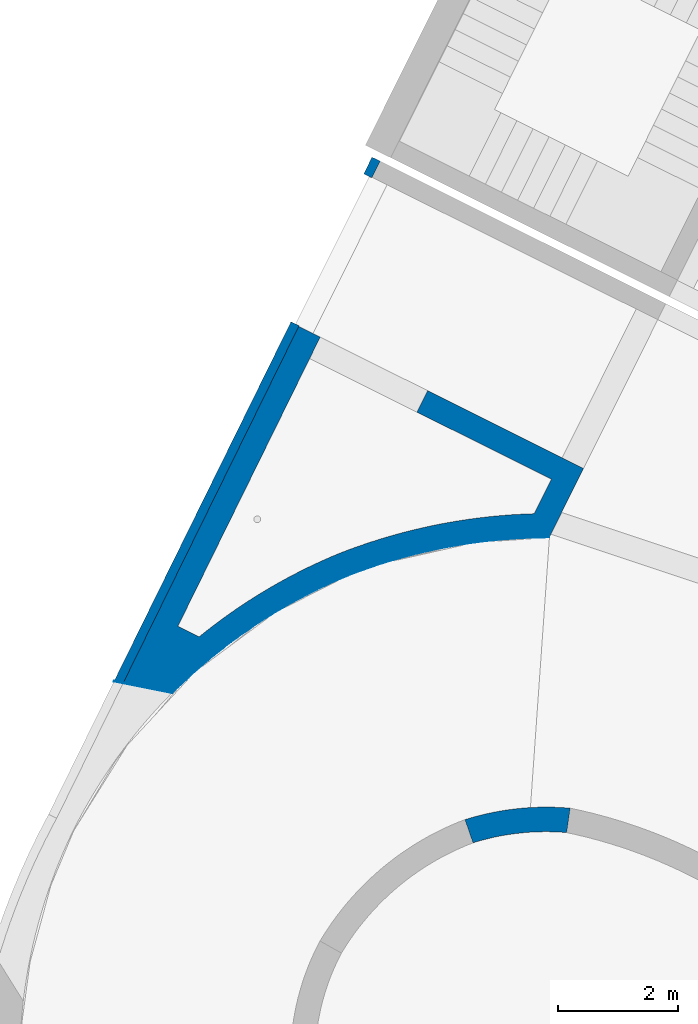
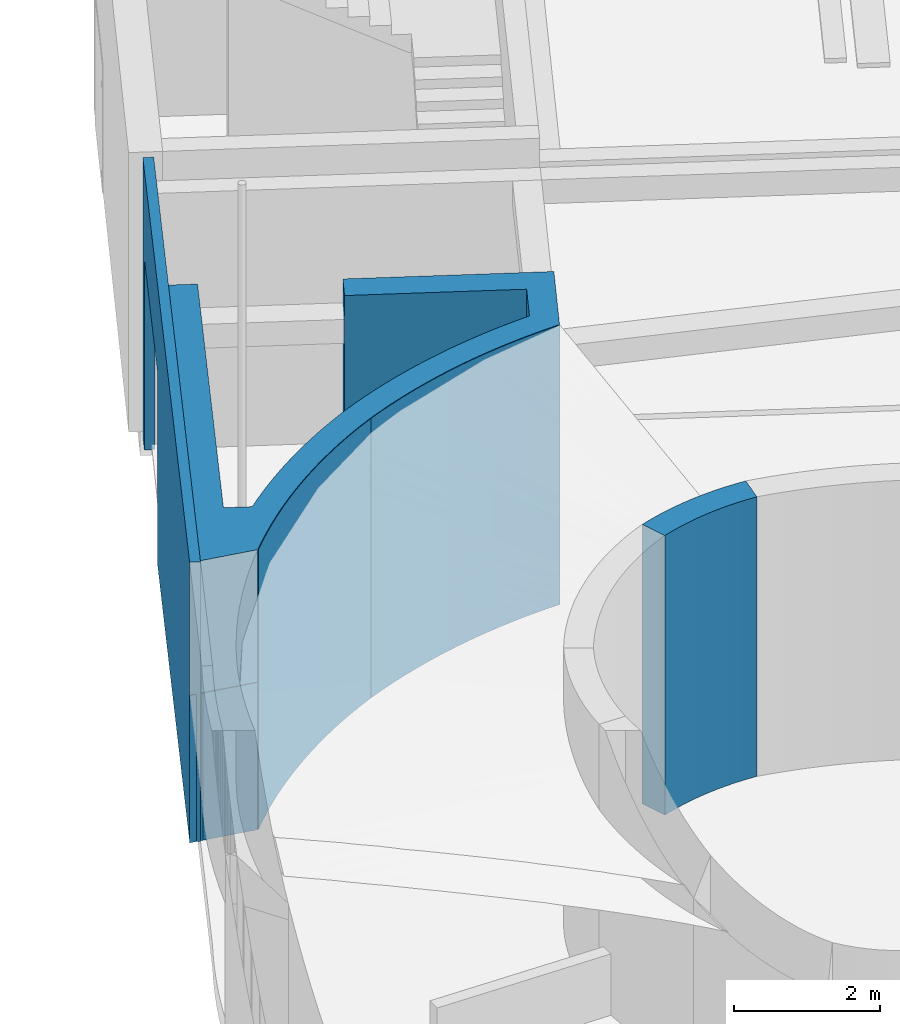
# One storey, part 8 of 91: 7 walls, 2 openings.
"""IFC2X3 building model written with IfcOpenShell, lengths in metres."""

import ifcopenshell
import ifcopenshell.guid

model = None  # the IFC model being written
_history = None  # IfcOwnerHistory: only IFC2X3 demands one
_inside = {}  # id of a spatial element -> (the spatial element, [elements in it])
_under = {}  # id of a project, library or spatial element -> (it, [spatial elements below it])
_declared = {}  # id of a project -> (the project, [libraries it declares])
_typed = {}  # id of a type object -> (the type object, [elements of that type])
_made_of = {}  # id of a material, layer set ... -> (it, [elements and type objects made of it])


def new_model(schema):
    """Start an empty IFC model of exactly this schema.

    Asked for "IFC4X3", IfcOpenShell would pick the latest addendum, in which some entities
    have other attributes; the version numbers below select the first issue.
    IFC2X3 requires an IfcOwnerHistory on every rooted entity: one is made here for all.
    """
    global model, _history
    if schema == "IFC4X3":
        model = ifcopenshell.file(schema_version=(4, 3, 0, 0))
    else:
        model = ifcopenshell.file(schema=schema)
    _inside.clear()
    _under.clear()
    _declared.clear()
    _typed.clear()
    _made_of.clear()
    _history = None
    if model.schema == "IFC2X3":
        org = make("IfcOrganization", Name="unknown")
        user = make(
            "IfcPersonAndOrganization",
            ThePerson=make("IfcPerson", FamilyName="unknown"),
            TheOrganization=org,
        )
        app = make(
            "IfcApplication",
            ApplicationDeveloper=org,
            Version="unknown",
            ApplicationFullName="unknown",
            ApplicationIdentifier="unknown",
        )
        _history = make(
            "IfcOwnerHistory",
            OwningUser=user,
            OwningApplication=app,
            ChangeAction="ADDED",
            CreationDate=0,
        )
    return model


def make(cls, **values):
    """One entity of the class cls with the attributes given. An attribute that is None is left unset."""
    return model.create_entity(
        cls, **{name: value for name, value in values.items() if value is not None}
    )


def entity(cls, *values):
    """Any entity or typed value of the class cls, its attributes in the order of the schema. None: left unset."""
    e = model.create_entity(cls)
    for i, value in enumerate(values):
        if value is not None:
            e[i] = value
    return e


def rooted(cls, **values):
    """An entity with a GlobalId (a new one), such as an element, a storey or a relation."""
    return make(cls, GlobalId=ifcopenshell.guid.new(), OwnerHistory=_history, **values)


def si_unit(unit_type, name, prefix=None):
    """IfcSIUnit, for example si_unit("LENGTHUNIT", "METRE", prefix="MILLI")."""
    return make("IfcSIUnit", UnitType=unit_type, Prefix=prefix, Name=name)


def converted_unit(unit_type, name, factor, base, dimensions=None, offset=None):
    """IfcConversionBasedUnit, such as the inch: factor (a typed value) times the base unit."""
    return make(
        "IfcConversionBasedUnit"
        if offset is None
        else "IfcConversionBasedUnitWithOffset",
        ConversionOffset=offset,
        Dimensions=None
        if dimensions is None
        else entity("IfcDimensionalExponents", *dimensions),
        UnitType=unit_type,
        Name=name,
        ConversionFactor=make(
            "IfcMeasureWithUnit", ValueComponent=factor, UnitComponent=base
        ),
    )


def derived_unit(unit_type, elements):
    """IfcDerivedUnit: a product of units, each with its exponent."""
    return make(
        "IfcDerivedUnit",
        Elements=[
            make("IfcDerivedUnitElement", Unit=unit, Exponent=power)
            for unit, power in elements
        ],
        UnitType=unit_type,
    )


def assignment(units):
    """IfcUnitAssignment: the units of a project."""
    return None if units is None else make("IfcUnitAssignment", Units=units)


def point(xyz):
    """IfcCartesianPoint."""
    return None if xyz is None else make("IfcCartesianPoint", Coordinates=xyz)


def direction(xyz):
    """IfcDirection."""
    return None if xyz is None else make("IfcDirection", DirectionRatios=xyz)


def frame(location, z_axis=None, x_axis=None):
    """IfcAxis2Placement3D, a coordinate frame: its origin and axes. An axis left out is left unset."""
    return make(
        "IfcAxis2Placement3D",
        Location=point(location),
        Axis=direction(z_axis),
        RefDirection=direction(x_axis),
    )


def frame_2d(location, x_axis=None):
    """IfcAxis2Placement2D, a coordinate frame in the plane: its origin and x axis."""
    return make(
        "IfcAxis2Placement2D", Location=point(location), RefDirection=direction(x_axis)
    )


def origin():
    """The frame at (0, 0, 0) with its axes left unset."""
    return frame((0.0, 0.0, 0.0))


def place(relative_to, where):
    """IfcLocalPlacement: puts the frame where relative to a parent placement (None: the world)."""
    return make(
        "IfcLocalPlacement", PlacementRelTo=relative_to, RelativePlacement=where
    )


def context(
    kind, dimensions, precision=None, world=None, true_north=None, identifier=None
):
    """IfcGeometricRepresentationContext, for example the 3D "Model" context."""
    return make(
        "IfcGeometricRepresentationContext",
        ContextIdentifier=identifier,
        ContextType=kind,
        CoordinateSpaceDimension=dimensions,
        Precision=precision,
        WorldCoordinateSystem=world,
        TrueNorth=true_north,
    )


def subcontext(parent, identifier, kind, view, scale=None):
    """IfcGeometricRepresentationSubContext, for example "Body" below "Model"."""
    return make(
        "IfcGeometricRepresentationSubContext",
        ContextIdentifier=identifier,
        ContextType=kind,
        ParentContext=parent,
        TargetScale=scale,
        TargetView=view,
    )


def project(units=None, contexts=None):
    """IfcProject with its units and contexts."""
    return rooted(
        "IfcProject",
        Name="project",
        RepresentationContexts=contexts,
        UnitsInContext=assignment(units),
    )


def spatial(cls, under=None, at=None, **own):
    """A site, building, storey or space (cls), placed at a placement, below another one or the project."""
    s = rooted(cls, ObjectPlacement=at, **own)
    if under is not None:
        _under.setdefault(under.id(), (under, []))[1].append(s)
    return s


def polyline(points):
    """IfcPolyline through the points."""
    return make("IfcPolyline", Points=[point(p) for p in points])


def circle_curve(where, radius):
    """IfcCircle in the frame where."""
    return make("IfcCircle", Position=where, Radius=radius)


def parameter(value):
    """IfcParameterValue: where a trimmed curve begins or ends, as a parameter of its basis curve."""
    return model.create_entity("IfcParameterValue", value)


def trimmed(basis, trim1, trim2, sense, master):
    """IfcTrimmedCurve: the piece of a basis curve between two trims."""
    return make(
        "IfcTrimmedCurve",
        BasisCurve=basis,
        Trim1=trim1,
        Trim2=trim2,
        SenseAgreement=sense,
        MasterRepresentation=master,
    )


def segment(curve, same_sense, transition):
    """IfcCompositeCurveSegment."""
    return make(
        "IfcCompositeCurveSegment",
        Transition=transition,
        SameSense=same_sense,
        ParentCurve=curve,
    )


def composite_curve(segments, self_intersect=None):
    """IfcCompositeCurve: segments joined end to end."""
    return make("IfcCompositeCurve", Segments=segments, SelfIntersect=self_intersect)


def profile(cls, at=None, kind="AREA", **sizes):
    """A parametric profile (cls). Its sizes go by their IFC names, for example OverallWidth=200.0."""
    return make(cls, ProfileType=kind, Position=at, **sizes)


def rectangle(**sizes):
    """IfcRectangleProfileDef."""
    return profile("IfcRectangleProfileDef", **sizes)


def outline(outer, holes=None, kind="AREA"):
    """IfcArbitraryClosedProfileDef: a profile drawn as a closed curve; with holes, ...WithVoids."""
    if holes is None:
        return make("IfcArbitraryClosedProfileDef", ProfileType=kind, OuterCurve=outer)
    return make(
        "IfcArbitraryProfileDefWithVoids",
        ProfileType=kind,
        OuterCurve=outer,
        InnerCurves=holes,
    )


def extrude(swept, where, along, depth):
    """IfcExtrudedAreaSolid: the profile swept, set in the frame where, extruded along a direction by depth."""
    return make(
        "IfcExtrudedAreaSolid",
        SweptArea=swept,
        Position=where,
        ExtrudedDirection=direction(along),
        Depth=depth,
    )


def shape(context_of_items, identifier, shape_type, items):
    """IfcShapeRepresentation: the items that make up one representation, for example the "Body"."""
    return make(
        "IfcShapeRepresentation",
        ContextOfItems=context_of_items,
        RepresentationIdentifier=identifier,
        RepresentationType=shape_type,
        Items=items,
    )


def material(Name=None, Category=None):
    """IfcMaterial."""
    return make("IfcMaterial", Name=Name, Category=Category)


def layer(
    of_material, thickness, ventilated=None, Name=None, Category=None, Priority=None
):
    """IfcMaterialLayer: one layer of a wall or slab, of a material (None: an air gap)."""
    return make(
        "IfcMaterialLayer",
        Material=of_material,
        LayerThickness=thickness,
        IsVentilated=ventilated,
        Name=Name,
        Category=Category,
        Priority=Priority,
    )


def layer_set(layers, Name=None):
    """IfcMaterialLayerSet."""
    return make("IfcMaterialLayerSet", MaterialLayers=layers, LayerSetName=Name)


def layer_usage(for_layer_set, set_direction, sense, offset, extent=None):
    """IfcMaterialLayerSetUsage: how a layer set lies in its element."""
    return make(
        "IfcMaterialLayerSetUsage",
        ForLayerSet=for_layer_set,
        LayerSetDirection=set_direction,
        DirectionSense=sense,
        OffsetFromReferenceLine=offset,
        ReferenceExtent=extent,
    )


def made_of(thing, what):
    """Note that an element or type object is made of a material, layer set ...; save() writes the relation."""
    if what is not None:
        _made_of.setdefault(what.id(), (what, []))[1].append(thing)
    return thing


def type_object(cls, material=None, **own):
    """A type object (cls), such as IfcWallType, which elements share."""
    return made_of(rooted(cls, **own), material)


def element(
    cls,
    number,
    at=None,
    inside=None,
    cuts=None,
    type_object=None,
    material=None,
    context=None,
    identifier="Body",
    shape_type=None,
    held_by="IfcProductDefinitionShape",
    body=None,
    shapes=None,
    **own,
):
    """One element of the class cls, such as IfcWall. Its Tag is "e" and its number.

    at: its placement. inside: the storey or other place that contains it. cuts: it is an
    opening in that element (IfcRelVoidsElement). A single representation is given by context,
    identifier, shape_type and body (its items); several are given by shapes. held_by: the class
    of the entity that holds the representations. save() writes the other relations.
    """
    e = rooted(cls, Tag="e%d" % number, ObjectPlacement=at, **own)
    if body is not None:
        shapes = [shape(context, identifier, shape_type, body)]
    if shapes is not None:
        e.Representation = make(held_by, Representations=shapes)
    if inside is not None:
        _inside.setdefault(inside.id(), (inside, []))[1].append(e)
    if cuts is not None:
        rooted(
            "IfcRelVoidsElement", RelatingBuildingElement=cuts, RelatedOpeningElement=e
        )
    if type_object is not None:
        _typed.setdefault(type_object.id(), (type_object, []))[1].append(e)
    return made_of(e, material)


def aggregate(whole, parts):
    """IfcRelAggregates: a whole, such as a stair, and the parts it consists of."""
    return rooted("IfcRelAggregates", RelatingObject=whole, RelatedObjects=parts)


def save(model, path):
    """Write the relations noted so far, then the file.

    IfcRelAggregates (storeys below a building ...), IfcRelContainedInSpatialStructure (elements
    in a storey), IfcRelDefinesByType, IfcRelAssociatesMaterial and IfcRelDeclares: one each for
    every whole, place, type object, material and project.
    """
    for whole, parts in _under.values():
        aggregate(whole, parts)
    for where, things in _inside.values():
        rooted(
            "IfcRelContainedInSpatialStructure",
            RelatedElements=things,
            RelatingStructure=where,
        )
    for kind, things in _typed.values():
        rooted("IfcRelDefinesByType", RelatedObjects=things, RelatingType=kind)
    for what, things in _made_of.values():
        rooted("IfcRelAssociatesMaterial", RelatedObjects=things, RelatingMaterial=what)
    for by, libraries in _declared.values():
        rooted("IfcRelDeclares", RelatingContext=by, RelatedDefinitions=libraries)
    model.write(path)


model = new_model("IFC2X3")

# Units and contexts
model_context = context("Model", 3, precision=1e-05, world=origin(), true_north=direction((0.894925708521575, 0.446215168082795)))
context_of_model = context(None, 3, precision=1e-05, world=origin(), true_north=direction((0.894925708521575, 0.446215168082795)))
body_context = subcontext(model_context, "Body", "Model", "MODEL_VIEW")
ifc_project = project(units=[si_unit("LENGTHUNIT", "METRE"), si_unit("AREAUNIT", "SQUARE_METRE"), si_unit("VOLUMEUNIT", "CUBIC_METRE"), converted_unit("PLANEANGLEUNIT", "DEGREE", entity("IfcRatioMeasure", 0.0174532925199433), si_unit("PLANEANGLEUNIT", "RADIAN"), dimensions=[0, 0, 0, 0, 0, 0, 0]), si_unit("MASSUNIT", "GRAM", prefix="KILO"), si_unit("TIMEUNIT", "SECOND"), si_unit("FREQUENCYUNIT", "HERTZ"), si_unit("THERMODYNAMICTEMPERATUREUNIT", "DEGREE_CELSIUS"), derived_unit("THERMALTRANSMITTANCEUNIT", [(si_unit("MASSUNIT", "GRAM", prefix="KILO"), 1), (si_unit("THERMODYNAMICTEMPERATUREUNIT", "KELVIN"), -1), (si_unit("TIMEUNIT", "SECOND"), -3)]), derived_unit("VOLUMETRICFLOWRATEUNIT", [(si_unit("LENGTHUNIT", "METRE"), 3), (si_unit("TIMEUNIT", "SECOND"), -1)]), si_unit("ELECTRICCURRENTUNIT", "AMPERE"), si_unit("ELECTRICVOLTAGEUNIT", "VOLT"), si_unit("POWERUNIT", "WATT"), si_unit("FORCEUNIT", "NEWTON", prefix="KILO"), si_unit("ILLUMINANCEUNIT", "LUX"), si_unit("LUMINOUSFLUXUNIT", "LUMEN"), si_unit("LUMINOUSINTENSITYUNIT", "CANDELA"), si_unit("PRESSUREUNIT", "PASCAL")], contexts=[model_context, context_of_model])

# Site, building, storey
site_placement = place(None, frame((218.228324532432, 584.720189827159, 0.0), z_axis=(0.0, 0.0, 1.0), x_axis=(0.446215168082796, 0.894925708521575, 0.0)))
site = spatial("IfcSite", under=ifc_project, at=site_placement, Name="Default", CompositionType="ELEMENT")
building_placement = place(site_placement, origin())
building = spatial("IfcBuilding", under=site, at=building_placement, CompositionType="ELEMENT")
storey_placement = place(building_placement, origin())
storey = spatial("IfcBuildingStorey", under=building, at=storey_placement, Name="0 - Piano Terra", CompositionType="ELEMENT", Elevation=0.0)

# Wall
ifc_material_1 = material(Name="Intonaco - Bianco")
ifc_layer_1 = layer(ifc_material_1, 0.01)
ifc_material_2 = material(Name="Default - Calcestruzzo")
ifc_layer_2 = layer(ifc_material_2, 0.4)
ifc_layer_set_1 = layer_set([ifc_layer_1, ifc_layer_2], Name="Muro di base:Setto CA intonacato int - 41 cm")
ifc_layer_usage_1 = layer_usage(ifc_layer_set_1, "AXIS2", "POSITIVE", -0.205)
wall_type_1 = type_object("IfcWallType", Name="Muro di base:Setto CA intonacato int - 41 cm", PredefinedType="STANDARD", material=ifc_layer_set_1)
wall_1_placement = place(storey_placement, frame((-69.9977419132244, -0.185749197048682, 0.0), z_axis=(0.0, 0.0, 1.0), x_axis=(0.931448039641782, 0.363874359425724, 0.0)))
element("IfcWallStandardCase", 1, at=wall_1_placement, inside=storey, type_object=wall_type_1, material=ifc_layer_usage_1, Name="Muro di base:Setto CA intonacato int - 41 cm", ObjectType="Muro di base:Setto CA intonacato int - 41 cm", context=body_context, shape_type="SweptSolid", body=[
    extrude(outline(composite_curve([segment(trimmed(circle_curve(frame_2d((-3.94564680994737, -1.65081916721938), x_axis=(1.0, 0.0)), 4.48207057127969), [parameter(359.999999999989)], [parameter(22.7039466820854)], True, "PARAMETER"), True, "CONTINUOUS"), segment(polyline([(0.189114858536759, 0.0791237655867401), (-0.18479960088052, -0.089477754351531)]), True, "CONTINUOUS"), segment(trimmed(circle_curve(frame_2d((-3.94564680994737, -1.65081916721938), x_axis=(1.0, 0.0)), 4.07207057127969), [parameter(0.320799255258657)], [parameter(22.5461152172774)], True, "PARAMETER"), False, "CONTINUOUS"), segment(polyline([(0.126359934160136, -1.62801975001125), (0.536423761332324, -1.65081916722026)]), True, "CONTINUOUS")], self_intersect=False)), origin(), (0.0, 0.0, 1.0), 4.69),
])

# Wall, openings
ifc_material_3 = material(Name="Alluminio")
ifc_layer_3 = layer(ifc_material_3, 0.15)
ifc_layer_set_2 = layer_set([ifc_layer_3], Name="Muro di base:Rivestimento 15 cm")
ifc_layer_usage_2 = layer_usage(ifc_layer_set_2, "AXIS2", "NEGATIVE", 0.075)
wall_type_2 = type_object("IfcWallType", Name="Muro di base:Rivestimento 15 cm", PredefinedType="STANDARD", material=ifc_layer_set_2)
wall_2_placement = place(storey_placement, frame((-70.3903914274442, 6.14515681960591, 0.0), z_axis=(0.0, 0.0, 1.0), x_axis=(0.999986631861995, 0.00517069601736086, 0.0)))
wall_2 = element("IfcWallStandardCase", 2, at=wall_2_placement, inside=storey, type_object=wall_type_2, material=ifc_layer_usage_2, Name="Muro di base:Rivestimento 15 cm", ObjectType="Muro di base:Rivestimento 15 cm", context=body_context, shape_type="SweptSolid", body=[
    extrude(rectangle(XDim=9.71636941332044, YDim=0.15, at=frame_2d((4.8728874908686, 4.85722573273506e-17), x_axis=(1.0, 0.0))), origin(), (0.0, 0.0, 1.0), 4.69),
])
opening_1_placement = place(wall_2_placement, frame((6.67041028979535, -0.0749959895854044, 0.0)))
element("IfcOpeningElement", 3, at=opening_1_placement, cuts=wall_2, Name="Muro di base:Rivestimento 15 cm", ObjectType="Opening", context=body_context, shape_type="SweptSolid", body=[
    extrude(rectangle(XDim=0.0899999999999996, YDim=2.74999999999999, at=frame_2d((0.0, 4.32986979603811e-15), x_axis=(1.0, 0.0))), frame((1.37577559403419, -4.01041459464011e-06, 0.0449999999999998), z_axis=(0.0, 1.0, 0.0), x_axis=(0.0, 0.0, -1.0)), (0.0, 0.0, 1.0), 0.149999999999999),
])
opening_2_placement = place(wall_2_placement, frame((6.65531212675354, -1.59891850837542, 0.0900000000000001)))
element("IfcOpeningElement", 4, at=opening_2_placement, cuts=wall_2, Name="Muro di base:Rivestimento 15 cm", ObjectType="Opening", context=body_context, shape_type="SweptSolid", body=[
    extrude(rectangle(XDim=3.13, YDim=2.75, at=frame_2d((8.65973959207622e-15, 0.0), x_axis=(0.0, 1.0))), frame((1.39076007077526, -8.14916245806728e-05, 1.565), z_axis=(0.0, 1.0, 0.0), x_axis=(1.0, 0.0, 0.0)), (0.0, 0.0, 1.0), 3.048),
])

# Walls
ifc_layer_4 = layer(ifc_material_1, 0.01)
ifc_layer_set_3 = layer_set([ifc_layer_4], Name="Muro di base:Intonaco int 1 cm")
ifc_layer_usage_3 = layer_usage(ifc_layer_set_3, "AXIS2", "NEGATIVE", 0.00500000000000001)
wall_type_3 = type_object("IfcWallType", Name="Muro di base:Intonaco int 1 cm", PredefinedType="STANDARD", material=ifc_layer_set_3)
wall_3_placement = place(storey_placement, frame((-65.0089584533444, 0.797668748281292, 0.0)))
element("IfcWallStandardCase", 5, at=wall_3_placement, inside=storey, type_object=wall_type_3, material=ifc_layer_usage_3, Name="Muro di base:Intonaco int 1 cm", ObjectType="Muro di base:Intonaco int 1 cm", context=body_context, shape_type="SweptSolid", body=[
    extrude(outline(composite_curve([segment(trimmed(circle_curve(frame_2d((-8.24751256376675, -4.12505517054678), x_axis=(1.0, 0.0)), 9.21658032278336), [parameter(26.5722694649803)], [parameter(47.9921140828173)], True, "PARAMETER"), False, "CONTINUOUS"), segment(polyline([(-0.0044718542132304, -0.0022366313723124), (0.00447185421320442, 0.00223663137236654)]), True, "CONTINUOUS"), segment(trimmed(circle_curve(frame_2d((-8.24751256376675, -4.12505517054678), x_axis=(1.0, 0.0)), 9.22658032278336), [parameter(26.57226946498)], [parameter(47.9926519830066)], True, "PARAMETER"), True, "CONTINUOUS"), segment(polyline([(-2.07284597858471, 2.73083842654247), (-2.07947394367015, 2.72334993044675)]), True, "CONTINUOUS")], self_intersect=False)), origin(), (0.0, 0.0, 1.0), 4.69),
])
ifc_layer_usage_4 = layer_usage(ifc_layer_set_3, "AXIS2", "NEGATIVE", 0.00500000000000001)
wall_4_placement = place(storey_placement, frame((-67.085085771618, 3.52473453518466, 0.0)))
element("IfcWallStandardCase", 6, at=wall_4_placement, inside=storey, type_object=wall_type_3, material=ifc_layer_usage_4, Name="Muro di base:Intonaco int 1 cm", ObjectType="Muro di base:Intonaco int 1 cm", context=body_context, shape_type="SweptSolid", body=[
    extrude(outline(composite_curve([segment(trimmed(circle_curve(frame_2d((-5.85511062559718, -6.73176950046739), x_axis=(1.0, 0.0)), 8.91682946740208), [parameter(48.9846942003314)], [parameter(71.7050263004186)], True, "PARAMETER"), False, "CONTINUOUS"), segment(polyline([(-0.00334662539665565, -0.00371585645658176), (0.00328133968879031, 0.00377263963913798)]), True, "CONTINUOUS"), segment(polyline([(0.00328133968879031, 0.00377263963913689), (-0.242911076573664, 0.210240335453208)]), True, "CONTINUOUS"), segment(polyline([(-0.242911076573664, 0.210240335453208), (-0.496374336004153, 0.407714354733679)]), True, "CONTINUOUS"), segment(polyline([(-0.496374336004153, 0.407714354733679), (-0.756780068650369, 0.595938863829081)]), True, "CONTINUOUS"), segment(polyline([(-0.756780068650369, 0.595938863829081), (-1.02379090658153, 0.774670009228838)]), True, "CONTINUOUS"), segment(polyline([(-1.02379090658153, 0.774670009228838), (-1.29706092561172, 0.943676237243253)]), True, "CONTINUOUS"), segment(polyline([(-1.29706092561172, 0.943676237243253), (-1.57623609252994, 1.10273859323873)]), True, "CONTINUOUS"), segment(polyline([(-1.57623609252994, 1.10273859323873), (-1.8609547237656, 1.25165100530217)]), True, "CONTINUOUS"), segment(polyline([(-1.8609547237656, 1.25165100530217), (-2.15084795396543, 1.39022055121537)]), True, "CONTINUOUS"), segment(polyline([(-2.15084795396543, 1.39022055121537), (-2.44554021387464, 1.5182677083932)]), True, "CONTINUOUS"), segment(polyline([(-2.44554021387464, 1.5182677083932), (-2.74464971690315, 1.63562658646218)]), True, "CONTINUOUS"), segment(polyline([(-2.74464971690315, 1.63562658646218), (-3.04778322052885, 1.74214310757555)]), True, "CONTINUOUS"), segment(polyline([(-3.04778322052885, 1.74214310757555), (-3.05347448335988, 1.74402658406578)]), True, "CONTINUOUS"), segment(polyline([(-3.05347448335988, 1.74402658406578), (-3.05916478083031, 1.7459053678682)]), True, "CONTINUOUS"), segment(polyline([(-3.05916478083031, 1.7459053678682), (-3.0560361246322, 1.73434115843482)]), True, "CONTINUOUS")], self_intersect=False)), origin(), (0.0, 0.0, 1.0), 4.69),
])
ifc_layer_usage_5 = layer_usage(ifc_layer_set_3, "AXIS2", "POSITIVE", -0.00500000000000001)
wall_5_placement = place(storey_placement, frame((-70.3453256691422, 6.03300380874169, 0.0), z_axis=(0.0, 0.0, 1.0), x_axis=(0.261157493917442, -0.96529620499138, 0.0)))
element("IfcWallStandardCase", 7, at=wall_5_placement, inside=storey, type_object=wall_type_3, material=ifc_layer_usage_5, Name="Muro di base:Intonaco int 1 cm", ObjectType="Muro di base:Intonaco int 1 cm", context=body_context, shape_type="SweptSolid", body=[
    extrude(outline(composite_curve([segment(trimmed(circle_curve(frame_2d((8.24170442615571, -4.91792423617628), x_axis=(0.261157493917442, 0.96529620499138)), 8.92682946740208), [parameter(71.6704843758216)], [parameter(71.7473916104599)], True, "PARAMETER"), False, "CONTINUOUS"), segment(polyline([(0.795020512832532, 0.00499999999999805), (0.0, 0.00499999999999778)]), True, "CONTINUOUS"), segment(polyline([(0.0, 0.00499999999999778), (0.0, -0.00499999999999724)]), True, "CONTINUOUS"), segment(polyline([(0.0, -0.00499999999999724), (0.78841925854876, -0.00499999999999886)]), True, "CONTINUOUS")], self_intersect=False)), origin(), (0.0, 0.0, 1.0), 2.47),
])
ifc_layer_5 = layer(ifc_material_3, 0.01)
ifc_layer_set_4 = layer_set([ifc_layer_5], Name="Muro di base:Lamierino")
ifc_layer_usage_6 = layer_usage(ifc_layer_set_4, "AXIS2", "POSITIVE", -0.00500000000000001)
wall_type_4 = type_object("IfcWallType", Name="Muro di base:Lamierino", PredefinedType="STANDARD", material=ifc_layer_set_4)
wall_6_placement = place(storey_placement, frame((-70.3962977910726, 6.22140811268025, 0.0), z_axis=(0.0, 0.0, 1.0), x_axis=(0.261157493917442, -0.96529620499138, 0.0)))
element("IfcWallStandardCase", 8, at=wall_6_placement, inside=storey, type_object=wall_type_4, material=ifc_layer_usage_6, Name="Muro di base:Lamierino", ObjectType="Muro di base:Lamierino", context=body_context, shape_type="SweptSolid", body=[
    extrude(outline(polyline([(0.195177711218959, -0.00499999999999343), (0.195177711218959, 0.00500000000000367), (0.157827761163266, 0.00500000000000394), (0.00265004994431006, 0.00499999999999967), (0.0, -0.00499999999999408), (0.195177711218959, -0.00499999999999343)])), origin(), (0.0, 0.0, 1.0), 2.47),
])
ifc_material_4 = material(Name="Calcestruzzo, gettato in opera")
wall_type_5 = type_object("IfcWallType", Name="Setti-1:Setti-1", PredefinedType="NOTDEFINED", material=ifc_material_4)
wall_7_placement = place(storey_placement, frame((-70.3502534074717, 0.798921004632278, 0.0)))
element("IfcWall", 9, at=wall_7_placement, inside=storey, type_object=wall_type_5, material=ifc_material_4, Name="Setti-1:Setti-1", ObjectType="Setti-1:Setti-1", context=body_context, shape_type="SweptSolid", body=[
    extrude(outline(composite_curve([segment(polyline([(-2.3805181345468, 0.0710145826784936), (-1.9805181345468, 0.0710145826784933)]), True, "CONTINUOUS"), segment(polyline([(-1.9805181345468, 0.0710145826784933), (-1.98051813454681, 2.57668621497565)]), True, "CONTINUOUS"), segment(polyline([(-1.98051813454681, 2.57668621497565), (-1.3382567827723, 2.57668621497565)]), True, "CONTINUOUS"), segment(trimmed(circle_curve(frame_2d((7.14650356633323, 7.10299364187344), x_axis=(-1.0, 0.0)), 9.61658032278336), [parameter(28.0782797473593)], [parameter(48.0127504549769)], True, "PARAMETER"), True, "CONTINUOUS"), segment(trimmed(circle_curve(frame_2d((6.8302289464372, 6.98264218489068), x_axis=(-1.0, 0.0)), 9.31682946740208), [parameter(48.9633790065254)], [parameter(65.654527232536)], True, "PARAMETER"), True, "CONTINUOUS"), segment(polyline([(2.98948186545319, -1.50570118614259), (2.98948186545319, -1.90121840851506)]), True, "CONTINUOUS"), segment(polyline([(2.98948186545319, -1.90121840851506), (-2.38051813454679, -1.92898541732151)]), True, "CONTINUOUS"), segment(polyline([(-2.38051813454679, -1.92898541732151), (-2.38051813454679, -2.3289907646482)]), True, "CONTINUOUS"), segment(polyline([(-2.38051813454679, -2.3289907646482), (4.24028595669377, -2.29475614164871)]), True, "CONTINUOUS"), segment(polyline([(4.24028595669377, -2.29475614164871), (4.02290617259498, -1.49127209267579)]), True, "CONTINUOUS"), segment(trimmed(circle_curve(frame_2d((6.8302289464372, 6.98264218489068), x_axis=(-1.0, 0.0)), 8.92682946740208), [parameter(48.9841382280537)], [parameter(71.670484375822)], True, "PARAMETER"), False, "CONTINUOUS"), segment(trimmed(circle_curve(frame_2d((7.14650356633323, 7.10299364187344), x_axis=(-1.0, 0.0)), 9.22658032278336), [parameter(26.5654348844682)], [parameter(47.992651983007)], True, "PARAMETER"), False, "CONTINUOUS"), segment(polyline([(-1.1059731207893, 2.9766862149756), (-2.38051813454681, 2.97668621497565)]), True, "CONTINUOUS"), segment(polyline([(-2.38051813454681, 2.97668621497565), (-2.3805181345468, 0.0710145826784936)]), True, "CONTINUOUS")], self_intersect=False)), frame((4.24028595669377, 2.97668621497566, 0.0), z_axis=(0.0, 0.0, 1.0), x_axis=(-1.0, 0.0, 0.0)), (0.0, 0.0, 1.0), 4.69),
])

save(model, "model.ifc")
